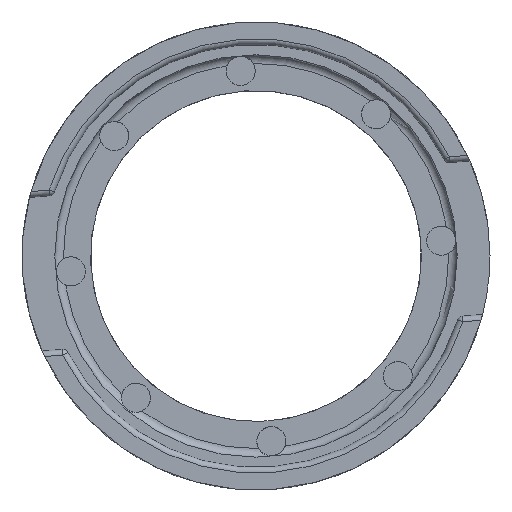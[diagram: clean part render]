
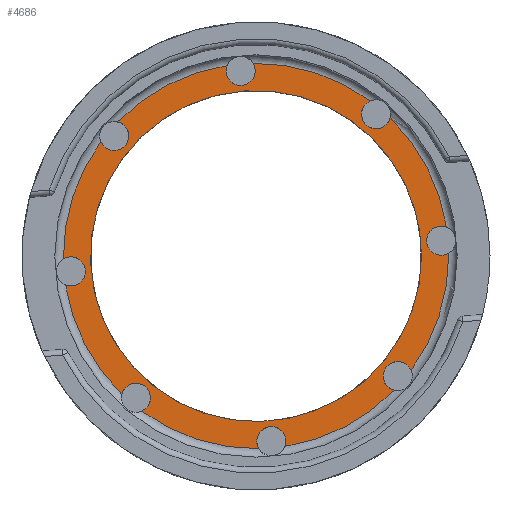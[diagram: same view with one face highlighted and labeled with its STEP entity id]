
A CAD part, top view. The second image highlights one B-rep face of the part: STEP entity #4686.
In plain terms, the highlighted planar face has unit normal (0, 0, 1).
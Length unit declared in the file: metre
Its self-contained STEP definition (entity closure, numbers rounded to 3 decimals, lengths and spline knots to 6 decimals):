
#628=CIRCLE('',#5070,0.03375);
#629=CIRCLE('',#5071,0.00255);
#630=CIRCLE('',#5072,0.03375);
#631=CIRCLE('',#5073,0.00255);
#632=CIRCLE('',#5074,0.03375);
#633=CIRCLE('',#5075,0.00255);
#634=CIRCLE('',#5076,0.03375);
#635=CIRCLE('',#5077,0.00255);
#636=CIRCLE('',#5078,0.03375);
#637=CIRCLE('',#5079,0.00255);
#638=CIRCLE('',#5080,0.03375);
#639=CIRCLE('',#5081,0.00255);
#640=CIRCLE('',#5082,0.03375);
#641=CIRCLE('',#5083,0.00255);
#642=CIRCLE('',#5084,0.03375);
#643=CIRCLE('',#5085,0.00255);
#644=CIRCLE('',#5086,0.029);
#1501=ORIENTED_EDGE('',*,*,#2743,.T.);
#1502=ORIENTED_EDGE('',*,*,#2744,.T.);
#1503=ORIENTED_EDGE('',*,*,#2745,.T.);
#1504=ORIENTED_EDGE('',*,*,#2746,.T.);
#1505=ORIENTED_EDGE('',*,*,#2747,.T.);
#1506=ORIENTED_EDGE('',*,*,#2748,.T.);
#1507=ORIENTED_EDGE('',*,*,#2749,.T.);
#1508=ORIENTED_EDGE('',*,*,#2750,.T.);
#1509=ORIENTED_EDGE('',*,*,#2751,.T.);
#1510=ORIENTED_EDGE('',*,*,#2752,.T.);
#1511=ORIENTED_EDGE('',*,*,#2753,.T.);
#1512=ORIENTED_EDGE('',*,*,#2754,.T.);
#1513=ORIENTED_EDGE('',*,*,#2755,.T.);
#1514=ORIENTED_EDGE('',*,*,#2756,.T.);
#1515=ORIENTED_EDGE('',*,*,#2757,.T.);
#1516=ORIENTED_EDGE('',*,*,#2758,.T.);
#1517=ORIENTED_EDGE('',*,*,#2759,.T.);
#2743=EDGE_CURVE('',#3283,#3284,#628,.F.);
#2744=EDGE_CURVE('',#3284,#3285,#629,.T.);
#2745=EDGE_CURVE('',#3285,#3286,#630,.F.);
#2746=EDGE_CURVE('',#3286,#3287,#631,.T.);
#2747=EDGE_CURVE('',#3287,#3288,#632,.F.);
#2748=EDGE_CURVE('',#3288,#3289,#633,.T.);
#2749=EDGE_CURVE('',#3289,#3290,#634,.F.);
#2750=EDGE_CURVE('',#3290,#3291,#635,.T.);
#2751=EDGE_CURVE('',#3291,#3292,#636,.F.);
#2752=EDGE_CURVE('',#3292,#3293,#637,.T.);
#2753=EDGE_CURVE('',#3293,#3294,#638,.F.);
#2754=EDGE_CURVE('',#3294,#3295,#639,.T.);
#2755=EDGE_CURVE('',#3295,#3296,#640,.F.);
#2756=EDGE_CURVE('',#3296,#3297,#641,.T.);
#2757=EDGE_CURVE('',#3297,#3298,#642,.F.);
#2758=EDGE_CURVE('',#3298,#3283,#643,.T.);
#2759=EDGE_CURVE('',#3299,#3299,#644,.T.);
#3283=VERTEX_POINT('',#11805);
#3284=VERTEX_POINT('',#11806);
#3285=VERTEX_POINT('',#11808);
#3286=VERTEX_POINT('',#11810);
#3287=VERTEX_POINT('',#11812);
#3288=VERTEX_POINT('',#11814);
#3289=VERTEX_POINT('',#11816);
#3290=VERTEX_POINT('',#11818);
#3291=VERTEX_POINT('',#11820);
#3292=VERTEX_POINT('',#11822);
#3293=VERTEX_POINT('',#11824);
#3294=VERTEX_POINT('',#11826);
#3295=VERTEX_POINT('',#11828);
#3296=VERTEX_POINT('',#11830);
#3297=VERTEX_POINT('',#11832);
#3298=VERTEX_POINT('',#11834);
#3299=VERTEX_POINT('',#11837);
#3890=EDGE_LOOP('',(#1501,#1502,#1503,#1504,#1505,#1506,#1507,#1508,#1509,
#1510,#1511,#1512,#1513,#1514,#1515,#1516));
#3891=EDGE_LOOP('',(#1517));
#4218=FACE_BOUND('',#3890,.T.);
#4219=FACE_BOUND('',#3891,.T.);
#4435=PLANE('',#5069);
#4686=ADVANCED_FACE('',(#4218,#4219),#4435,.F.);
#5069=AXIS2_PLACEMENT_3D('',#11803,#5701,#5702);
#5070=AXIS2_PLACEMENT_3D('',#11804,#5703,#5704);
#5071=AXIS2_PLACEMENT_3D('',#11807,#5705,#5706);
#5072=AXIS2_PLACEMENT_3D('',#11809,#5707,#5708);
#5073=AXIS2_PLACEMENT_3D('',#11811,#5709,#5710);
#5074=AXIS2_PLACEMENT_3D('',#11813,#5711,#5712);
#5075=AXIS2_PLACEMENT_3D('',#11815,#5713,#5714);
#5076=AXIS2_PLACEMENT_3D('',#11817,#5715,#5716);
#5077=AXIS2_PLACEMENT_3D('',#11819,#5717,#5718);
#5078=AXIS2_PLACEMENT_3D('',#11821,#5719,#5720);
#5079=AXIS2_PLACEMENT_3D('',#11823,#5721,#5722);
#5080=AXIS2_PLACEMENT_3D('',#11825,#5723,#5724);
#5081=AXIS2_PLACEMENT_3D('',#11827,#5725,#5726);
#5082=AXIS2_PLACEMENT_3D('',#11829,#5727,#5728);
#5083=AXIS2_PLACEMENT_3D('',#11831,#5729,#5730);
#5084=AXIS2_PLACEMENT_3D('',#11833,#5731,#5732);
#5085=AXIS2_PLACEMENT_3D('',#11835,#5733,#5734);
#5086=AXIS2_PLACEMENT_3D('',#11836,#5735,#5736);
#5701=DIRECTION('',(0.,0.,-1.));
#5702=DIRECTION('',(0.819,0.574,0.));
#5703=DIRECTION('',(0.,0.,-1.));
#5704=DIRECTION('',(1.,0.,0.));
#5705=DIRECTION('',(0.,0.,-1.));
#5706=DIRECTION('',(1.,0.,0.));
#5707=DIRECTION('',(0.,0.,-1.));
#5708=DIRECTION('',(1.,0.,0.));
#5709=DIRECTION('',(0.,0.,-1.));
#5710=DIRECTION('',(1.,0.,0.));
#5711=DIRECTION('',(0.,0.,-1.));
#5712=DIRECTION('',(1.,0.,0.));
#5713=DIRECTION('',(0.,0.,-1.));
#5714=DIRECTION('',(1.,0.,0.));
#5715=DIRECTION('',(0.,0.,-1.));
#5716=DIRECTION('',(1.,0.,0.));
#5717=DIRECTION('',(0.,0.,-1.));
#5718=DIRECTION('',(1.,0.,0.));
#5719=DIRECTION('',(0.,0.,-1.));
#5720=DIRECTION('',(1.,0.,0.));
#5721=DIRECTION('',(0.,0.,-1.));
#5722=DIRECTION('',(1.,0.,0.));
#5723=DIRECTION('',(0.,0.,-1.));
#5724=DIRECTION('',(1.,0.,0.));
#5725=DIRECTION('',(0.,0.,-1.));
#5726=DIRECTION('',(1.,0.,0.));
#5727=DIRECTION('',(0.,0.,-1.));
#5728=DIRECTION('',(1.,0.,0.));
#5729=DIRECTION('',(0.,0.,-1.));
#5730=DIRECTION('',(1.,0.,0.));
#5731=DIRECTION('',(0.,0.,-1.));
#5732=DIRECTION('',(1.,0.,0.));
#5733=DIRECTION('',(0.,0.,-1.));
#5734=DIRECTION('',(1.,0.,0.));
#5735=DIRECTION('',(0.,0.,-1.));
#5736=DIRECTION('',(1.,0.,0.));
#11803=CARTESIAN_POINT('',(0.,0.,0.0768));
#11804=CARTESIAN_POINT('',(0.,0.,0.0768));
#11805=CARTESIAN_POINT('',(-0.027177,0.020012,0.0768));
#11806=CARTESIAN_POINT('',(-0.033746,-0.000503,0.0768));
#11807=CARTESIAN_POINT('',(-0.032438,-0.002692,0.0768));
#11808=CARTESIAN_POINT('',(-0.033368,-0.005067,0.0768));
#11809=CARTESIAN_POINT('',(0.,0.,0.0768));
#11810=CARTESIAN_POINT('',(-0.023507,-0.024218,0.0768));
#11811=CARTESIAN_POINT('',(-0.021034,-0.024841,0.0768));
#11812=CARTESIAN_POINT('',(-0.020012,-0.027177,0.0768));
#11813=CARTESIAN_POINT('',(0.,0.,0.0768));
#11814=CARTESIAN_POINT('',(0.000503,-0.033746,0.0768));
#11815=CARTESIAN_POINT('',(0.002692,-0.032438,0.0768));
#11816=CARTESIAN_POINT('',(0.005067,-0.033368,0.0768));
#11817=CARTESIAN_POINT('',(0.,0.,0.0768));
#11818=CARTESIAN_POINT('',(0.024218,-0.023507,0.0768));
#11819=CARTESIAN_POINT('',(0.024841,-0.021034,0.0768));
#11820=CARTESIAN_POINT('',(0.027177,-0.020012,0.0768));
#11821=CARTESIAN_POINT('',(0.,0.,0.0768));
#11822=CARTESIAN_POINT('',(0.033746,0.000503,0.0768));
#11823=CARTESIAN_POINT('',(0.032438,0.002692,0.0768));
#11824=CARTESIAN_POINT('',(0.033368,0.005067,0.0768));
#11825=CARTESIAN_POINT('',(0.,0.,0.0768));
#11826=CARTESIAN_POINT('',(0.023507,0.024218,0.0768));
#11827=CARTESIAN_POINT('',(0.021034,0.024841,0.0768));
#11828=CARTESIAN_POINT('',(0.020012,0.027177,0.0768));
#11829=CARTESIAN_POINT('',(0.,0.,0.0768));
#11830=CARTESIAN_POINT('',(-0.000503,0.033746,0.0768));
#11831=CARTESIAN_POINT('',(-0.002692,0.032438,0.0768));
#11832=CARTESIAN_POINT('',(-0.005067,0.033368,0.0768));
#11833=CARTESIAN_POINT('',(0.,0.,0.0768));
#11834=CARTESIAN_POINT('',(-0.024218,0.023507,0.0768));
#11835=CARTESIAN_POINT('',(-0.024841,0.021034,0.0768));
#11836=CARTESIAN_POINT('',(0.,0.,0.0768));
#11837=CARTESIAN_POINT('',(0.029,0.,0.0768));
